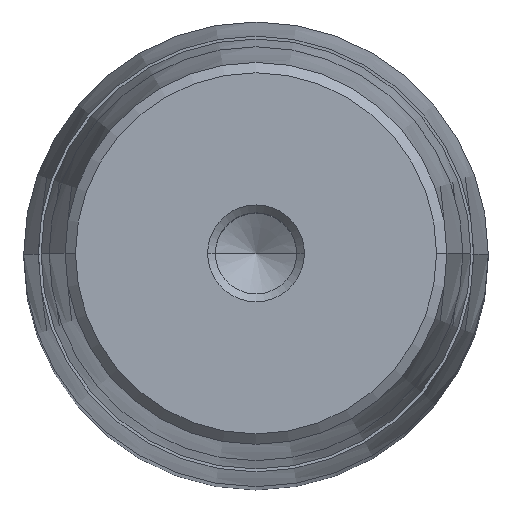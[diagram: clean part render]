
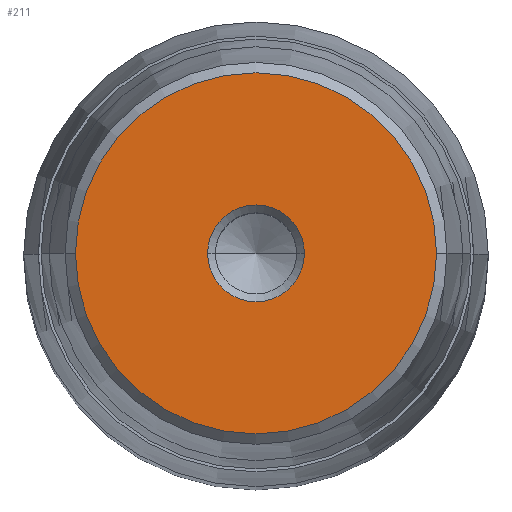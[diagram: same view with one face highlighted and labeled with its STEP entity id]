
A CAD part, top view. The second image highlights one B-rep face of the part: STEP entity #211.
In plain terms, the highlighted planar face has unit normal (0, 0, 1).
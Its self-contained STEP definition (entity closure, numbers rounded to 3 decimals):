
#136=CARTESIAN_POINT('Axis2P3D Location',(0.,0.,58.)) ;
#140=CARTESIAN_POINT('Vertex',(-5.,0.,58.)) ;
#142=CARTESIAN_POINT('Vertex',(5.,0.,58.)) ;
#179=CARTESIAN_POINT('Axis2P3D Location',(0.,5.,58.)) ;
#184=CARTESIAN_POINT('Axis2P3D Location',(0.,0.,58.)) ;
#188=CARTESIAN_POINT('Vertex',(-18.65,0.,58.)) ;
#190=CARTESIAN_POINT('Vertex',(18.65,0.,58.)) ;
#193=CARTESIAN_POINT('Axis2P3D Location',(0.,0.,58.)) ;
#202=CARTESIAN_POINT('Axis2P3D Location',(0.,0.,58.)) ;
#137=DIRECTION('Axis2P3D Direction',(0.,-0.,1.)) ;
#180=DIRECTION('Axis2P3D Direction',(0.,0.,-1.)) ;
#181=DIRECTION('Axis2P3D XDirection',(-1.,0.,0.)) ;
#185=DIRECTION('Axis2P3D Direction',(0.,0.,-1.)) ;
#194=DIRECTION('Axis2P3D Direction',(0.,0.,-1.)) ;
#203=DIRECTION('Axis2P3D Direction',(0.,0.,-1.)) ;
#138=AXIS2_PLACEMENT_3D('Circle Axis2P3D',#136,#137,$) ;
#182=AXIS2_PLACEMENT_3D('Plane Axis2P3D',#179,#180,#181) ;
#186=AXIS2_PLACEMENT_3D('Circle Axis2P3D',#184,#185,$) ;
#195=AXIS2_PLACEMENT_3D('Circle Axis2P3D',#193,#194,$) ;
#204=AXIS2_PLACEMENT_3D('Circle Axis2P3D',#202,#203,$) ;
#199=ORIENTED_EDGE('',*,*,#192,.F.) ;
#200=ORIENTED_EDGE('',*,*,#197,.F.) ;
#208=ORIENTED_EDGE('',*,*,#206,.T.) ;
#209=ORIENTED_EDGE('',*,*,#144,.T.) ;
#210=FACE_BOUND('',#207,.T.) ;
#211=ADVANCED_FACE('722-48x224x264',(#201,#210),#183,.F.) ;
#139=CIRCLE('generated circle',#138,5.) ;
#187=CIRCLE('generated circle',#186,18.65) ;
#196=CIRCLE('generated circle',#195,18.65) ;
#205=CIRCLE('generated circle',#204,5.) ;
#144=EDGE_CURVE('',#141,#143,#139,.F.) ;
#192=EDGE_CURVE('',#189,#191,#187,.T.) ;
#197=EDGE_CURVE('',#191,#189,#196,.T.) ;
#206=EDGE_CURVE('',#143,#141,#205,.T.) ;
#198=EDGE_LOOP('',(#199,#200)) ;
#207=EDGE_LOOP('',(#208,#209)) ;
#201=FACE_OUTER_BOUND('',#198,.T.) ;
#183=PLANE('Plane',#182) ;
#141=VERTEX_POINT('',#140) ;
#143=VERTEX_POINT('',#142) ;
#189=VERTEX_POINT('',#188) ;
#191=VERTEX_POINT('',#190) ;
